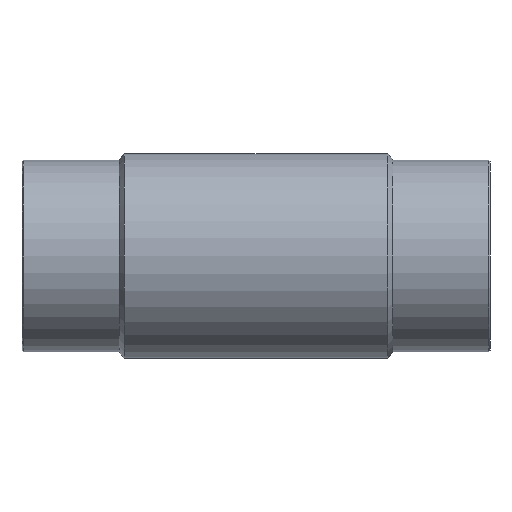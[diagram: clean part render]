
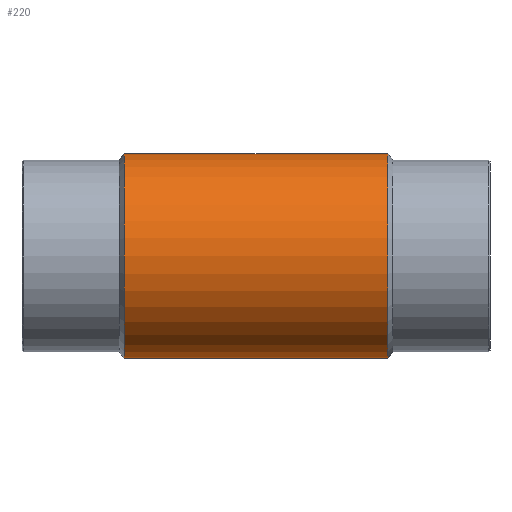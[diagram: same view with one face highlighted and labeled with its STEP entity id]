
A CAD part, front view. The second image highlights one B-rep face of the part: STEP entity #220.
In plain terms, the highlighted cylindrical face has radius 150 mm (diameter 300 mm), a full revolution.
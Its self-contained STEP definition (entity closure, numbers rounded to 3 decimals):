
#34=CIRCLE('',#251,150.);
#40=CIRCLE('',#262,150.);
#62=ORIENTED_EDGE('',*,*,#100,.T.);
#63=ORIENTED_EDGE('',*,*,#101,.T.);
#64=ORIENTED_EDGE('',*,*,#93,.F.);
#65=ORIENTED_EDGE('',*,*,#99,.T.);
#93=EDGE_CURVE('',#114,#114,#34,.T.);
#99=EDGE_CURVE('',#120,#120,#40,.T.);
#100=EDGE_CURVE('',#121,#122,#130,.F.);
#101=EDGE_CURVE('',#122,#121,#131,.T.);
#114=VERTEX_POINT('',#371);
#120=VERTEX_POINT('',#388);
#121=VERTEX_POINT('',#391);
#122=VERTEX_POINT('',#392);
#130=ELLIPSE('',#264,217.138,150.);
#131=ELLIPSE('',#265,217.138,150.);
#149=EDGE_LOOP('',(#62,#63));
#150=EDGE_LOOP('',(#64));
#151=EDGE_LOOP('',(#65));
#185=FACE_BOUND('',#149,.T.);
#186=FACE_BOUND('',#150,.T.);
#187=FACE_BOUND('',#151,.T.);
#209=CYLINDRICAL_SURFACE('',#263,150.);
#220=ADVANCED_FACE('',(#185,#186,#187),#209,.T.);
#251=AXIS2_PLACEMENT_3D('',#370,#297,#298);
#262=AXIS2_PLACEMENT_3D('',#387,#319,#320);
#263=AXIS2_PLACEMENT_3D('',#389,#321,#322);
#264=AXIS2_PLACEMENT_3D('',#390,#323,#324);
#265=AXIS2_PLACEMENT_3D('',#393,#325,#326);
#297=DIRECTION('',(-1.,0.,0.));
#298=DIRECTION('',(0.,0.,1.));
#319=DIRECTION('',(-1.,0.,0.));
#320=DIRECTION('',(0.,0.,1.));
#321=DIRECTION('',(-1.,0.,0.));
#322=DIRECTION('',(0.,0.,1.));
#323=DIRECTION('',(0.691,0.723,0.));
#324=DIRECTION('',(-0.723,0.691,0.));
#325=DIRECTION('',(0.691,-0.723,0.));
#326=DIRECTION('',(-0.723,-0.691,0.));
#370=CARTESIAN_POINT('',(-193.,0.,0.));
#371=CARTESIAN_POINT('',(-193.,0.,150.));
#387=CARTESIAN_POINT('',(193.,0.,0.));
#388=CARTESIAN_POINT('',(193.,0.,150.));
#389=CARTESIAN_POINT('',(-60.,0.,0.));
#390=CARTESIAN_POINT('',(0.,0.,0.));
#391=CARTESIAN_POINT('',(0.,0.,150.));
#392=CARTESIAN_POINT('',(0.,0.,-150.));
#393=CARTESIAN_POINT('',(0.,0.,0.));
